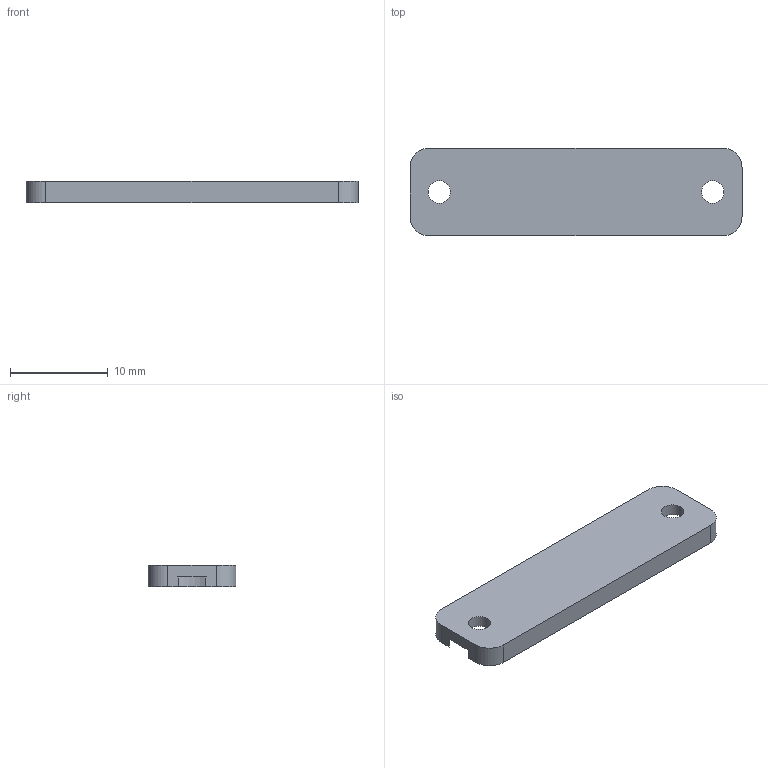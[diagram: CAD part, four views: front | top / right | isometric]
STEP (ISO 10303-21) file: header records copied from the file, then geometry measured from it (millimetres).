
FILE_DESCRIPTION(/* description */ (''),/* implementation_level */ '2;1');
FILE_NAME(/* name */ 'P15.step',/* time_stamp */ '2026-09-15T15:15:13-07:00',/* author */ (''),/* organization */ (''),/* preprocessor_version */ 'ST-DEVELOPER v20.1',/* originating_system */ 'Autodesk Translation Framework v15.8.0.0',/* authorisation */ '');
FILE_SCHEMA (('AUTOMOTIVE_DESIGN { 1 0 10303 214 3 1 1 }'));
Length unit declared in the file: millimetre
Products named in the file (1): 2026-09-15-15-15-13-924
Bounding box: 34 x 9 x 2.2 mm (x, y, z)
Volume: 588.4 mm3; surface area: 817.8 mm2
Topology: 1 solids, 1 shells, 16 faces, 42 edges, 28 vertices
Faces by surface type: plane 8, cylinder 8
Full cylindrical faces by diameter (mm): 2.3 x2
Entity records: 543 total; most frequent: DIRECTION 92, CARTESIAN_POINT 87, ORIENTED_EDGE 84, EDGE_CURVE 42, AXIS2_PLACEMENT_3D 33, VERTEX_POINT 28, LINE 26, VECTOR 26
